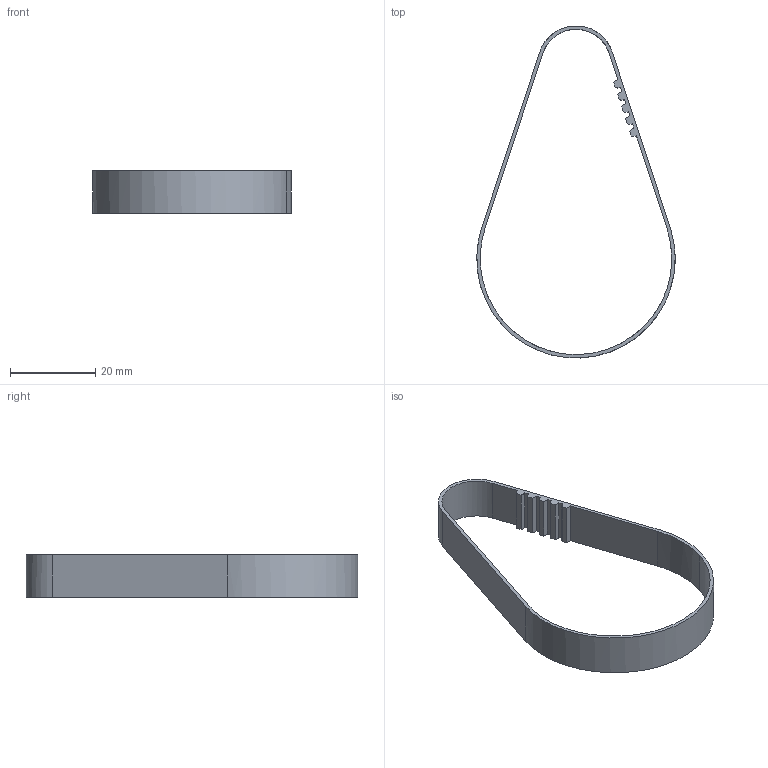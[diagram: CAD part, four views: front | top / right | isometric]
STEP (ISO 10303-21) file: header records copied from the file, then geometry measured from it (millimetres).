
FILE_DESCRIPTION(/* description */ (''),/* implementation_level */ '2;1');
FILE_NAME(/* name */ '8.x-drive#8.2#GBN1953GT-90',/* time_stamp */ '2014-12-01T20:17:54+01:00',/* author */ (''),/* organization */ (''),/* preprocessor_version */ 'ST-DEVELOPER v14',/* originating_system */ '',/* authorisation */ '');
FILE_SCHEMA (('AUTOMOTIVE_DESIGN'));
Length unit declared in the file: millimetre
Products named in the file (1): Document
Bounding box: 46.66 x 78.07 x 10 mm (x, y, z)
Volume: 1659.3 mm3; surface area: 4320.5 mm2
Topology: 1 solids, 1 shells, 32 faces, 90 edges, 60 vertices
Faces by surface type: plane 16, bspline 16
Entity records: 2170 total; most frequent: CARTESIAN_POINT 1030, ORIENTED_EDGE 180, PCURVE 180, DEFINITIONAL_REPRESENTATION 180, B_SPLINE_CURVE_WITH_KNOTS 178, SURFACE_CURVE 90, EDGE_CURVE 90, VERTEX_POINT 60
